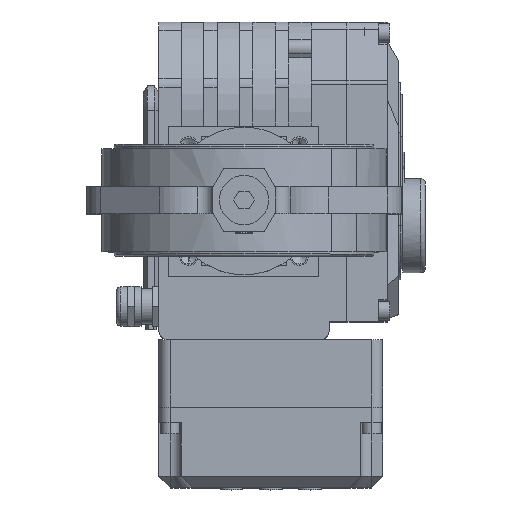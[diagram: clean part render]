
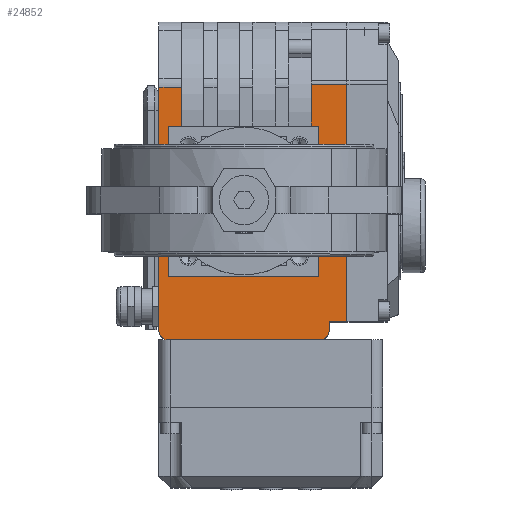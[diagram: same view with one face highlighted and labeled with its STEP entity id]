
A CAD part, top view. The second image highlights one B-rep face of the part: STEP entity #24852.
In plain terms, the highlighted planar face has unit normal (0, 0, 1) as drawn and (0, -1, 0) by its records, which use the part's own axes.
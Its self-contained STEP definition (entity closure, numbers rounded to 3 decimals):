
#19825=DIRECTION('',(1.,0.,0.));
#19826=VECTOR('',#19825,108.749);
#19827=CARTESIAN_POINT('',(-47.,-36.5,0.));
#19828=LINE('',#19827,#19826);
#20252=DIRECTION('',(-1.,0.,0.));
#20253=VECTOR('',#20252,18.604);
#20254=CARTESIAN_POINT('',(63.104,-36.5,-68.));
#20255=LINE('',#20254,#20253);
#20512=DIRECTION('',(0.,0.,1.));
#20513=VECTOR('',#20512,16.);
#20514=CARTESIAN_POINT('',(63.104,-36.5,-84.));
#20515=LINE('',#20514,#20513);
#20516=DIRECTION('',(-1.,0.,0.));
#20517=VECTOR('',#20516,106.104);
#20518=CARTESIAN_POINT('',(63.104,-36.5,-84.));
#20519=LINE('',#20518,#20517);
#20520=CARTESIAN_POINT('',(-47.,-36.5,-72.));
#20521=DIRECTION('',(0.,-1.,0.));
#20522=DIRECTION('',(-1.,0.,0.));
#20523=AXIS2_PLACEMENT_3D('',#20520,#20521,#20522);
#20525=DIRECTION('',(0.,0.,-1.));
#20526=VECTOR('',#20525,68.);
#20527=CARTESIAN_POINT('',(-51.,-36.5,-4.));
#20528=LINE('',#20527,#20526);
#20529=CARTESIAN_POINT('',(-47.,-36.5,-4.));
#20530=DIRECTION('',(0.,-1.,0.));
#20531=DIRECTION('',(0.,0.,1.));
#20532=AXIS2_PLACEMENT_3D('',#20529,#20530,#20531);
#20534=DIRECTION('',(0.,0.,1.));
#20535=VECTOR('',#20534,10.);
#20536=CARTESIAN_POINT('',(61.749,-36.5,-10.));
#20537=LINE('',#20536,#20535);
#20538=DIRECTION('',(-1.,0.,0.));
#20539=VECTOR('',#20538,17.249);
#20540=CARTESIAN_POINT('',(61.749,-36.5,-10.));
#20541=LINE('',#20540,#20539);
#20542=DIRECTION('',(0.,0.,1.));
#20543=VECTOR('',#20542,5.5);
#20544=CARTESIAN_POINT('',(44.5,-36.5,-10.));
#20545=LINE('',#20544,#20543);
#20546=DIRECTION('',(-1.,0.,0.));
#20547=VECTOR('',#20546,67.);
#20548=CARTESIAN_POINT('',(44.5,-36.5,-4.5));
#20549=LINE('',#20548,#20547);
#20550=DIRECTION('',(0.,0.,-1.));
#20551=VECTOR('',#20550,67.);
#20552=CARTESIAN_POINT('',(-22.5,-36.5,-4.5));
#20553=LINE('',#20552,#20551);
#20554=DIRECTION('',(1.,0.,0.));
#20555=VECTOR('',#20554,67.);
#20556=CARTESIAN_POINT('',(-22.5,-36.5,-71.5));
#20557=LINE('',#20556,#20555);
#20558=DIRECTION('',(0.,0.,1.));
#20559=VECTOR('',#20558,3.5);
#20560=CARTESIAN_POINT('',(44.5,-36.5,-71.5));
#20561=LINE('',#20560,#20559);
#20851=DIRECTION('',(1.,0.,0.));
#20852=VECTOR('',#20851,4.);
#20853=CARTESIAN_POINT('',(-47.,-36.5,-76.));
#20854=LINE('',#20853,#20852);
#20887=DIRECTION('',(0.,0.,-1.));
#20888=VECTOR('',#20887,8.);
#20889=CARTESIAN_POINT('',(-43.,-36.5,-76.));
#20890=LINE('',#20889,#20888);
#23059=CARTESIAN_POINT('',(-43.,-36.5,-84.));
#23061=VERTEX_POINT('',#23059);
#23063=CARTESIAN_POINT('',(-43.,-36.5,-76.));
#23065=VERTEX_POINT('',#23063);
#23067=CARTESIAN_POINT('',(-47.,-36.5,0.));
#23068=CARTESIAN_POINT('',(-51.,-36.5,-4.));
#23069=VERTEX_POINT('',#23067);
#23070=VERTEX_POINT('',#23068);
#23079=CARTESIAN_POINT('',(-51.,-36.5,-72.));
#23080=CARTESIAN_POINT('',(-47.,-36.5,-76.));
#23081=VERTEX_POINT('',#23079);
#23082=VERTEX_POINT('',#23080);
#23111=CARTESIAN_POINT('',(61.749,-36.5,0.));
#23113=VERTEX_POINT('',#23111);
#23255=CARTESIAN_POINT('',(61.749,-36.5,-10.));
#23256=VERTEX_POINT('',#23255);
#23351=CARTESIAN_POINT('',(-22.5,-36.5,-4.5));
#23352=CARTESIAN_POINT('',(-22.5,-36.5,-71.5));
#23353=VERTEX_POINT('',#23351);
#23354=VERTEX_POINT('',#23352);
#23355=CARTESIAN_POINT('',(44.5,-36.5,-71.5));
#23356=VERTEX_POINT('',#23355);
#23357=CARTESIAN_POINT('',(44.5,-36.5,-68.));
#23358=VERTEX_POINT('',#23357);
#23371=CARTESIAN_POINT('',(44.5,-36.5,-10.));
#23372=CARTESIAN_POINT('',(44.5,-36.5,-4.5));
#23373=VERTEX_POINT('',#23371);
#23374=VERTEX_POINT('',#23372);
#24047=CARTESIAN_POINT('',(63.104,-36.5,-68.));
#24049=VERTEX_POINT('',#24047);
#24053=CARTESIAN_POINT('',(63.104,-36.5,-84.));
#24054=VERTEX_POINT('',#24053);
#24817=CARTESIAN_POINT('',(-51.,-36.5,0.));
#24818=DIRECTION('',(0.,-1.,0.));
#24819=DIRECTION('',(1.,0.,0.));
#24820=AXIS2_PLACEMENT_3D('',#24817,#24818,#24819);
#24821=PLANE('',#24820);
#24823=ORIENTED_EDGE('',*,*,#24822,.F.);
#24825=ORIENTED_EDGE('',*,*,#24824,.T.);
#24827=ORIENTED_EDGE('',*,*,#24826,.F.);
#24829=ORIENTED_EDGE('',*,*,#24828,.F.);
#24831=ORIENTED_EDGE('',*,*,#24830,.F.);
#24833=ORIENTED_EDGE('',*,*,#24832,.F.);
#24834=ORIENTED_EDGE('',*,*,#24762,.F.);
#24835=ORIENTED_EDGE('',*,*,#24074,.T.);
#24837=ORIENTED_EDGE('',*,*,#24836,.F.);
#24838=ORIENTED_EDGE('',*,*,#24216,.T.);
#24840=ORIENTED_EDGE('',*,*,#24839,.T.);
#24842=ORIENTED_EDGE('',*,*,#24841,.T.);
#24844=ORIENTED_EDGE('',*,*,#24843,.T.);
#24846=ORIENTED_EDGE('',*,*,#24845,.T.);
#24848=ORIENTED_EDGE('',*,*,#24847,.T.);
#24849=ORIENTED_EDGE('',*,*,#24478,.F.);
#24850=EDGE_LOOP('',(#24823,#24825,#24827,#24829,#24831,#24833,#24834,#24835,
#24837,#24838,#24840,#24842,#24844,#24846,#24848,#24849));
#24851=FACE_OUTER_BOUND('',#24850,.F.);
#24852=ADVANCED_FACE('',(#24851),#24821,.T.);
#20524=CIRCLE('',#20523,4.);
#20533=CIRCLE('',#20532,4.);
#24074=EDGE_CURVE('',#23069,#23113,#19828,.T.);
#24216=EDGE_CURVE('',#23256,#23373,#20541,.T.);
#24478=EDGE_CURVE('',#24049,#23358,#20255,.T.);
#24762=EDGE_CURVE('',#23069,#23070,#20533,.T.);
#24822=EDGE_CURVE('',#24054,#24049,#20515,.T.);
#24824=EDGE_CURVE('',#24054,#23061,#20519,.T.);
#24826=EDGE_CURVE('',#23065,#23061,#20890,.T.);
#24828=EDGE_CURVE('',#23082,#23065,#20854,.T.);
#24830=EDGE_CURVE('',#23081,#23082,#20524,.T.);
#24832=EDGE_CURVE('',#23070,#23081,#20528,.T.);
#24836=EDGE_CURVE('',#23256,#23113,#20537,.T.);
#24839=EDGE_CURVE('',#23373,#23374,#20545,.T.);
#24841=EDGE_CURVE('',#23374,#23353,#20549,.T.);
#24843=EDGE_CURVE('',#23353,#23354,#20553,.T.);
#24845=EDGE_CURVE('',#23354,#23356,#20557,.T.);
#24847=EDGE_CURVE('',#23356,#23358,#20561,.T.);
